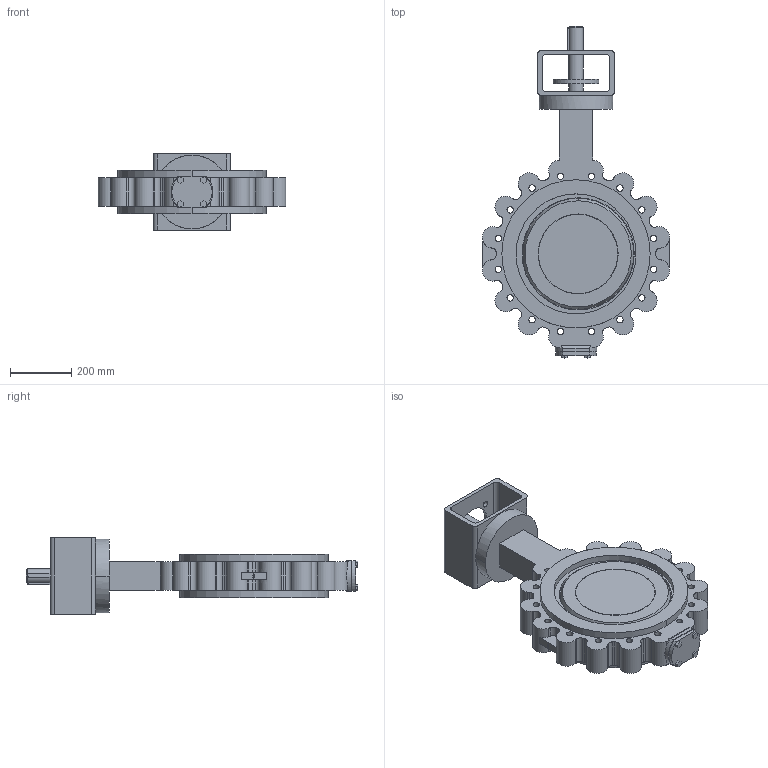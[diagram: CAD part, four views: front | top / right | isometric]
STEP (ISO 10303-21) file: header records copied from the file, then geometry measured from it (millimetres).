
FILE_DESCRIPTION( ( '' ), '1' );
FILE_NAME( 'F:/DE-SHS/TB/OR/04-Sonstiges/daten/files_3d/018_ZETRIX-PN10_freiesWellende/c000006353.stp', '2016-09-01T11:03:56', ( '' ), ( '' ), ' ', ' ', ' ' );
FILE_SCHEMA( ( 'CONFIG_CONTROL_DESIGN' ) );
Length unit declared in the file: millimetre
Products named in the file (1): 1
Bounding box: 609.3 x 1079.7 x 248 mm (x, y, z)
Volume: 29225391.8 mm3; surface area: 1721985.6 mm2
Topology: 1 solids, 1 shells, 308 faces, 856 edges, 570 vertices
Faces by surface type: cylinder 197, plane 103, sphere 4, cone 4
Entity records: 11068 total; most frequent: CARTESIAN_POINT 2661, DIRECTION 1862, ORIENTED_EDGE 1712, EDGE_CURVE 856, AXIS2_PLACEMENT_3D 731, VERTEX_POINT 570, CIRCLE 418, LINE 400
